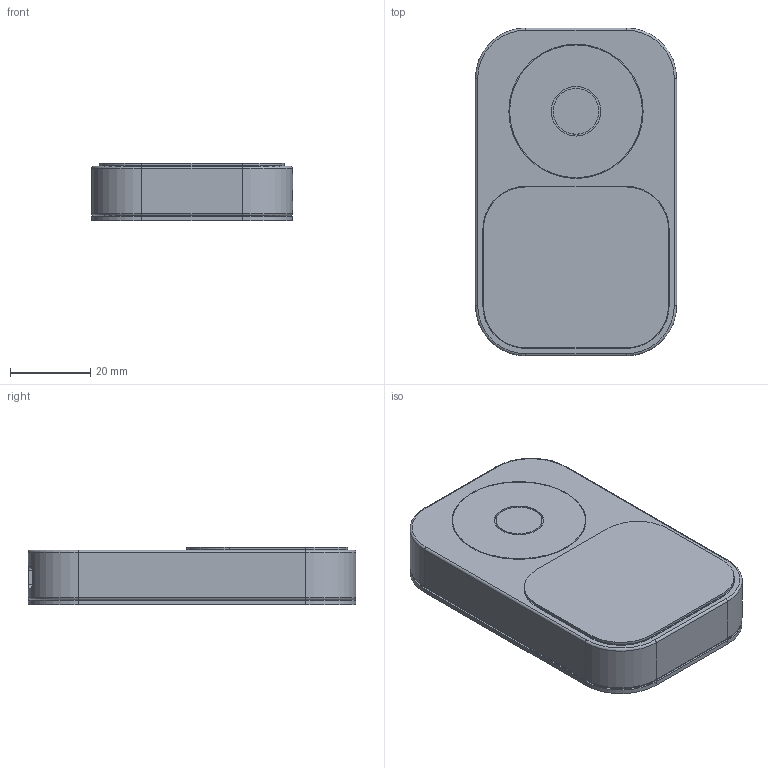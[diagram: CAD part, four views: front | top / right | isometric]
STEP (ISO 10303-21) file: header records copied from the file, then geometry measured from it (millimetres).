
FILE_DESCRIPTION(('FreeCAD Model'),'2;1');
FILE_NAME('Open CASCADE Shape Model','2026-09-22T01:23:49',('Author'),( ''),'Open CASCADE STEP processor 7.8','FreeCAD','Unknown');
FILE_SCHEMA(('AUTOMOTIVE_DESIGN { 1 0 10303 214 1 1 1 1 }'));
Length unit declared in the file: millimetre
Products named in the file (6): Q2_Appearance_Prototype_V1; 机身; 后盖 / SCREW3 固定柱向板内移 0.5 mm; 圆环; 中心键; 屏幕外观占位片
Assembly tree (5 placements, depth 2):
  Q2_Appearance_Prototype_V1
    机身
    后盖 / SCREW3 固定柱向板内移 0.5 mm
    圆环
    中心键
    屏幕外观占位片
Bounding box: 50 x 81.5 x 14.2 mm (x, y, z)
Volume: 11372.8 mm3; surface area: 23665.9 mm2
Topology: 5 solids, 5 shells, 197 faces, 465 edges, 306 vertices
Faces by surface type: plane 98, cylinder 91, torus 8
Full cylindrical faces by diameter (mm): 1.3 x6, 1.6 x4, 1.7 x4, 1.8 x2, 2.4 x1, 3.3 x2, 3.8 x4, 4 x4, 4.8 x1, 6.4 x1, 7.2 x1, 10.6 x1, 11.4 x1, 12.3 x1, 13.8 x1, 31.6 x1, 33 x1, 33.4 x1, 34.4 x1, 34.9 x1
Entity records: 5974 total; most frequent: CARTESIAN_POINT 1133, DIRECTION 1054, ORIENTED_EDGE 930, EDGE_CURVE 465, AXIS2_PLACEMENT_3D 401, VERTEX_POINT 306, LINE 252, VECTOR 252
